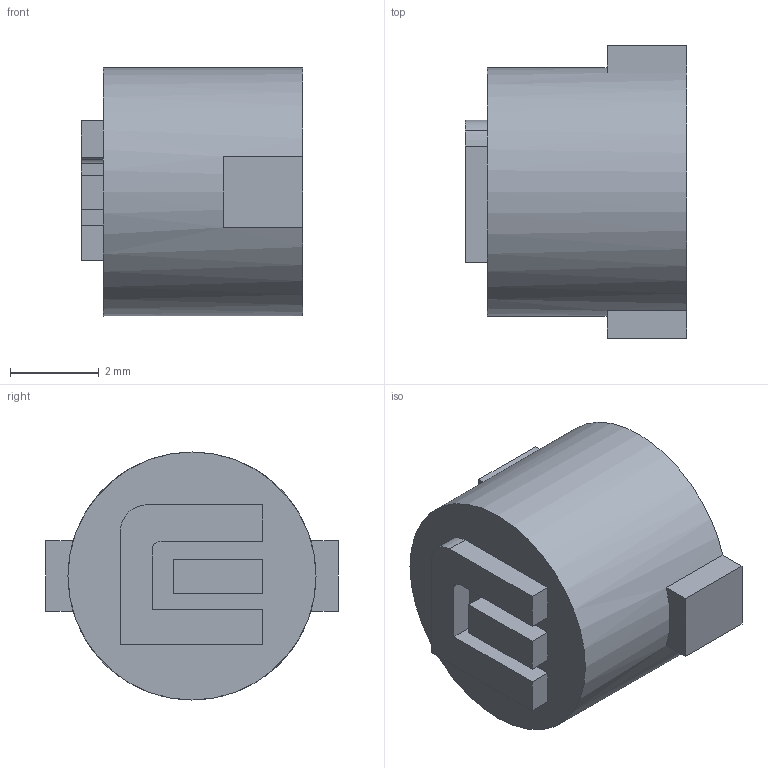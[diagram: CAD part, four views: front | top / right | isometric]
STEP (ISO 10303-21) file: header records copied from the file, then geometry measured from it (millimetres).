
FILE_DESCRIPTION(/* description */ (''),/* implementation_level */ '2;1');
FILE_NAME(/* name */ 'Button.step',/* time_stamp */ '2023-10-05T12:51:51-04:00',/* author */ (''),/* organization */ (''),/* preprocessor_version */ 'ST-DEVELOPER v20',/* originating_system */ 'Autodesk Translation Framework v12.14.0.127',/* authorisation */ '');
FILE_SCHEMA (('AUTOMOTIVE_DESIGN { 1 0 10303 214 3 1 1 }'));
Length unit declared in the file: millimetre
Products named in the file (2): PiWu; V2
Assembly tree (1 placements, depth 2):
  PiWu
    V2
Bounding box: 5 x 6.6 x 5.6 mm (x, y, z)
Volume: 117.8 mm3; surface area: 147.7 mm2
Topology: 1 solids, 1 shells, 29 faces, 75 edges, 50 vertices
Faces by surface type: plane 24, bspline 4, cylinder 1
Full cylindrical faces by diameter (mm): 5.6 x1
Entity records: 932 total; most frequent: CARTESIAN_POINT 206, ORIENTED_EDGE 150, DIRECTION 129, EDGE_CURVE 75, LINE 61, VECTOR 61, VERTEX_POINT 50, AXIS2_PLACEMENT_3D 34
